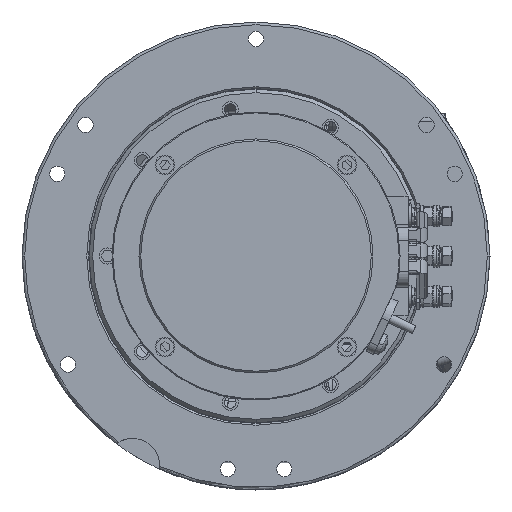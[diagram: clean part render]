
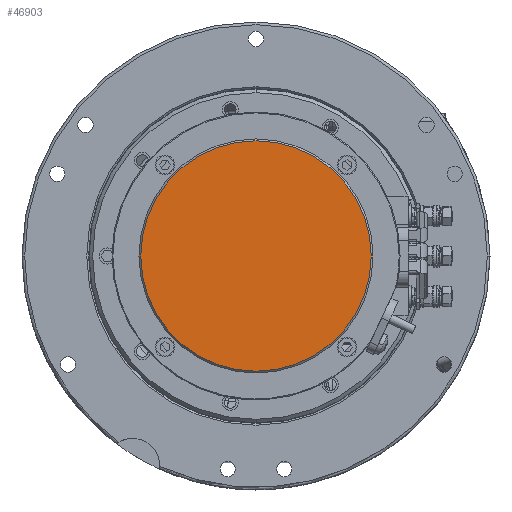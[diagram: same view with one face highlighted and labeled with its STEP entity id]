
A CAD part, front view. The second image highlights one B-rep face of the part: STEP entity #46903.
In plain terms, the highlighted planar face has unit normal (0, -1, 0).
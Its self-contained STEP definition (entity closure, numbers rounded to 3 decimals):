
#692 = AXIS2_PLACEMENT_3D ( 'NONE', #48252, #47854, #16254 ) ;
#9310 = AXIS2_PLACEMENT_3D ( 'NONE', #79419, #66277, #23536 ) ;
#10897 = PLANE ( 'NONE',  #692 ) ;
#12473 = AXIS2_PLACEMENT_3D ( 'NONE', #55669, #31060, #42115 ) ;
#15740 = CARTESIAN_POINT ( 'NONE',  ( 64., -237.518, 0. ) ) ;
#16254 = DIRECTION ( 'NONE',  ( 1., 0., 0. ) ) ;
#19634 = CARTESIAN_POINT ( 'NONE',  ( -64., -237.518, 0. ) ) ;
#23536 = DIRECTION ( 'NONE',  ( 1., 0., 0. ) ) ;
#26582 = EDGE_LOOP ( 'NONE', ( #33906, #70650 ) ) ;
#31060 = DIRECTION ( 'NONE',  ( 0., -1., 0. ) ) ;
#32977 = CIRCLE ( 'NONE', #9310, 64. ) ;
#33906 = ORIENTED_EDGE ( 'NONE', *, *, #53579, .T. ) ;
#42115 = DIRECTION ( 'NONE',  ( 1., 0., 0. ) ) ;
#46903 = ADVANCED_FACE ( 'NONE', ( #53577 ), #10897, .T. ) ;
#47854 = DIRECTION ( 'NONE',  ( 0., -1., 0. ) ) ;
#48252 = CARTESIAN_POINT ( 'NONE',  ( 0., -237.518, 0. ) ) ;
#53577 = FACE_OUTER_BOUND ( 'NONE', #26582, .T. ) ;
#53579 = EDGE_CURVE ( 'NONE', #54996, #71776, #32977, .T. ) ;
#54996 = VERTEX_POINT ( 'NONE', #19634 ) ;
#55669 = CARTESIAN_POINT ( 'NONE',  ( 0., -237.518, 0. ) ) ;
#57235 = EDGE_CURVE ( 'NONE', #71776, #54996, #76750, .T. ) ;
#66277 = DIRECTION ( 'NONE',  ( 0., -1., 0. ) ) ;
#70650 = ORIENTED_EDGE ( 'NONE', *, *, #57235, .T. ) ;
#71776 = VERTEX_POINT ( 'NONE', #15740 ) ;
#76750 = CIRCLE ( 'NONE', #12473, 64. ) ;
#79419 = CARTESIAN_POINT ( 'NONE',  ( 0., -237.518, 0. ) ) ;
